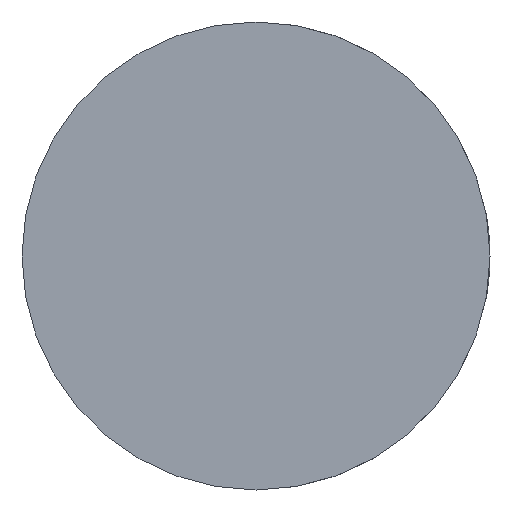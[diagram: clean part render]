
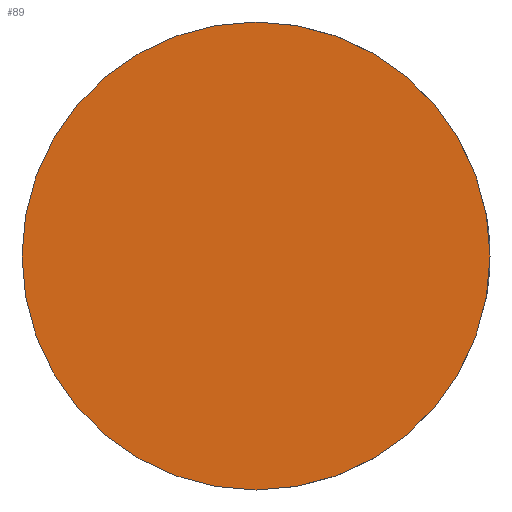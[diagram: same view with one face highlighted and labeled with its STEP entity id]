
A CAD part, front view. The second image highlights one B-rep face of the part: STEP entity #89.
In plain terms, the highlighted planar face has unit normal (0, -1, 0).
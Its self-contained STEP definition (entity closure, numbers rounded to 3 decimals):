
#31 = EDGE_LOOP ( 'NONE', ( #372, #1561 ) ) ;
#89 = ADVANCED_FACE ( 'NONE', ( #1961 ), #864, .T. ) ;
#297 = DIRECTION ( 'NONE',  ( 0., -1., 0. ) ) ;
#365 = CARTESIAN_POINT ( 'NONE',  ( 0., 0., 0. ) ) ;
#372 = ORIENTED_EDGE ( 'NONE', *, *, #1612, .T. ) ;
#438 = VERTEX_POINT ( 'NONE', #667 ) ;
#466 = AXIS2_PLACEMENT_3D ( 'NONE', #365, #1756, #528 ) ;
#528 = DIRECTION ( 'NONE',  ( 0., 0., -1. ) ) ;
#572 = DIRECTION ( 'NONE',  ( 0., -1., 0. ) ) ;
#667 = CARTESIAN_POINT ( 'NONE',  ( 0., 0., -30. ) ) ;
#706 = DIRECTION ( 'NONE',  ( 0., 0., -1. ) ) ;
#726 = AXIS2_PLACEMENT_3D ( 'NONE', #1337, #297, #1351 ) ;
#864 = PLANE ( 'NONE',  #466 ) ;
#907 = VERTEX_POINT ( 'NONE', #1996 ) ;
#910 = CIRCLE ( 'NONE', #1353, 30. ) ;
#1044 = EDGE_CURVE ( 'NONE', #438, #907, #1792, .T. ) ;
#1337 = CARTESIAN_POINT ( 'NONE',  ( 0., 0., 0. ) ) ;
#1351 = DIRECTION ( 'NONE',  ( 0., 0., -1. ) ) ;
#1353 = AXIS2_PLACEMENT_3D ( 'NONE', #1586, #572, #706 ) ;
#1561 = ORIENTED_EDGE ( 'NONE', *, *, #1044, .T. ) ;
#1586 = CARTESIAN_POINT ( 'NONE',  ( 0., 0., 0. ) ) ;
#1612 = EDGE_CURVE ( 'NONE', #907, #438, #910, .T. ) ;
#1756 = DIRECTION ( 'NONE',  ( 0., -1., 0. ) ) ;
#1792 = CIRCLE ( 'NONE', #726, 30. ) ;
#1961 = FACE_OUTER_BOUND ( 'NONE', #31, .T. ) ;
#1996 = CARTESIAN_POINT ( 'NONE',  ( 0., 0., 30. ) ) ;
